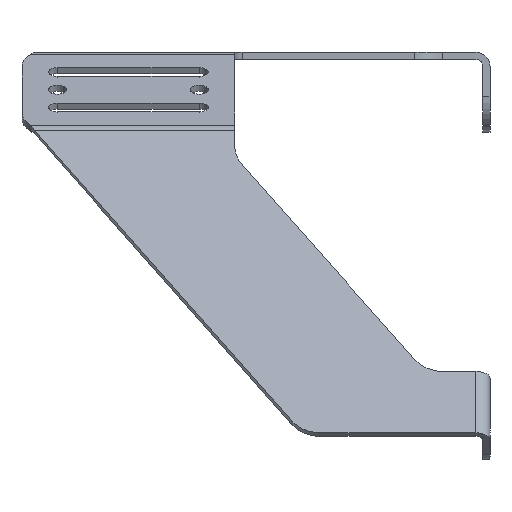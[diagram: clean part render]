
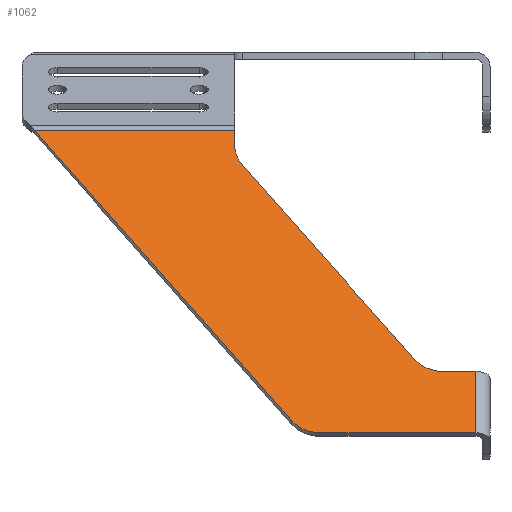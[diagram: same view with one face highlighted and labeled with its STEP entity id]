
A CAD part, left-side view. The second image highlights one B-rep face of the part: STEP entity #1062.
In plain terms, the highlighted planar face has unit normal (-0.866, 0, 0.5).
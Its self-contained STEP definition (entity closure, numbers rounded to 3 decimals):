
#74=CIRCLE('',#1167,20.);
#75=CIRCLE('',#1170,20.);
#76=CIRCLE('',#1172,20.);
#160=FACE_OUTER_BOUND('',#226,.T.);
#226=EDGE_LOOP('',(#973,#974,#975,#976,#977,#978,#979,#980,#981,#982));
#247=LINE('',#1640,#347);
#307=LINE('',#1929,#407);
#311=LINE('',#1941,#411);
#320=LINE('',#1965,#420);
#324=LINE('',#1975,#424);
#325=LINE('',#1979,#425);
#326=LINE('',#1981,#426);
#347=VECTOR('',#1230,10.);
#407=VECTOR('',#1426,10.);
#411=VECTOR('',#1438,10.);
#420=VECTOR('',#1463,10.);
#424=VECTOR('',#1475,10.);
#425=VECTOR('',#1482,10.);
#426=VECTOR('',#1485,10.);
#444=VERTEX_POINT('',#1617);
#449=VERTEX_POINT('',#1639);
#512=VERTEX_POINT('',#1926);
#513=VERTEX_POINT('',#1928);
#515=VERTEX_POINT('',#1934);
#516=VERTEX_POINT('',#1936);
#517=VERTEX_POINT('',#1940);
#518=VERTEX_POINT('',#1944);
#519=VERTEX_POINT('',#1945);
#520=VERTEX_POINT('',#1950);
#553=EDGE_CURVE('',#449,#444,#247,.T.);
#651=EDGE_CURVE('',#513,#512,#307,.T.);
#655=EDGE_CURVE('',#515,#516,#74,.T.);
#657=EDGE_CURVE('',#516,#517,#311,.T.);
#659=EDGE_CURVE('',#518,#519,#75,.T.);
#662=EDGE_CURVE('',#517,#520,#76,.T.);
#670=EDGE_CURVE('',#513,#518,#320,.T.);
#676=EDGE_CURVE('',#520,#512,#324,.T.);
#677=EDGE_CURVE('',#519,#444,#325,.T.);
#678=EDGE_CURVE('',#449,#515,#326,.T.);
#973=ORIENTED_EDGE('',*,*,#553,.T.);
#974=ORIENTED_EDGE('',*,*,#677,.F.);
#975=ORIENTED_EDGE('',*,*,#659,.F.);
#976=ORIENTED_EDGE('',*,*,#670,.F.);
#977=ORIENTED_EDGE('',*,*,#651,.T.);
#978=ORIENTED_EDGE('',*,*,#676,.F.);
#979=ORIENTED_EDGE('',*,*,#662,.F.);
#980=ORIENTED_EDGE('',*,*,#657,.F.);
#981=ORIENTED_EDGE('',*,*,#655,.F.);
#982=ORIENTED_EDGE('',*,*,#678,.F.);
#1008=PLANE('',#1185);
#1062=ADVANCED_FACE('',(#160),#1008,.T.);
#1167=AXIS2_PLACEMENT_3D('',#1937,#1433,#1434);
#1170=AXIS2_PLACEMENT_3D('',#1946,#1442,#1443);
#1172=AXIS2_PLACEMENT_3D('',#1951,#1448,#1449);
#1185=AXIS2_PLACEMENT_3D('',#1982,#1486,#1487);
#1230=DIRECTION('',(0.,1.,0.));
#1426=DIRECTION('',(0.5,0.,0.866));
#1433=DIRECTION('center_axis',(-0.866,0.,
0.5));
#1434=DIRECTION('ref_axis',(-0.161,0.947,-0.278));
#1438=DIRECTION('',(-0.397,-0.608,-0.687));
#1442=DIRECTION('center_axis',(0.866,0.,-0.5));
#1443=DIRECTION('ref_axis',(-0.304,0.794,-0.527));
#1448=DIRECTION('center_axis',(-0.866,0.,
0.5));
#1449=DIRECTION('ref_axis',(0.304,-0.794,0.527));
#1463=DIRECTION('',(0.,1.,0.));
#1475=DIRECTION('',(0.,-1.,0.));
#1482=DIRECTION('',(0.397,0.608,0.687));
#1485=DIRECTION('',(-0.5,0.,-0.866));
#1486=DIRECTION('center_axis',(-0.866,0.,
0.5));
#1487=DIRECTION('ref_axis',(0.5,0.,0.866));
#1617=CARTESIAN_POINT('',(-33.194,148.889,-42.5));
#1639=CARTESIAN_POINT('',(-33.194,36.,-42.5));
#1640=CARTESIAN_POINT('',(-33.194,19.306,-42.5));
#1926=CARTESIAN_POINT('',(-111.686,-100.,-178.452));
#1928=CARTESIAN_POINT('',(-131.686,-100.,-213.093));
#1929=CARTESIAN_POINT('',(-61.686,-100.,-91.85));
#1934=CARTESIAN_POINT('',(-38.208,36.,-51.184));
#1936=CARTESIAN_POINT('',(-44.292,31.872,-61.722));
#1937=CARTESIAN_POINT('Origin',(-38.208,16.,-51.184));
#1940=CARTESIAN_POINT('',(-107.771,-65.461,-171.67));
#1941=CARTESIAN_POINT('',(-107.771,-65.461,-171.67));
#1944=CARTESIAN_POINT('',(-131.686,-12.,-213.093));
#1945=CARTESIAN_POINT('',(-127.771,3.872,-206.311));
#1946=CARTESIAN_POINT('Origin',(-121.686,-12.,-195.773));
#1950=CARTESIAN_POINT('',(-111.686,-81.333,-178.452));
#1951=CARTESIAN_POINT('Origin',(-101.686,-81.333,-161.132));
#1965=CARTESIAN_POINT('',(-131.686,-12.,-213.093));
#1975=CARTESIAN_POINT('',(-111.686,-126.,-178.452));
#1979=CARTESIAN_POINT('',(-54.122,116.801,-78.747));
#1981=CARTESIAN_POINT('',(18.228,36.,46.565));
#1982=CARTESIAN_POINT('Origin',(-11.686,2.612,-5.247));
